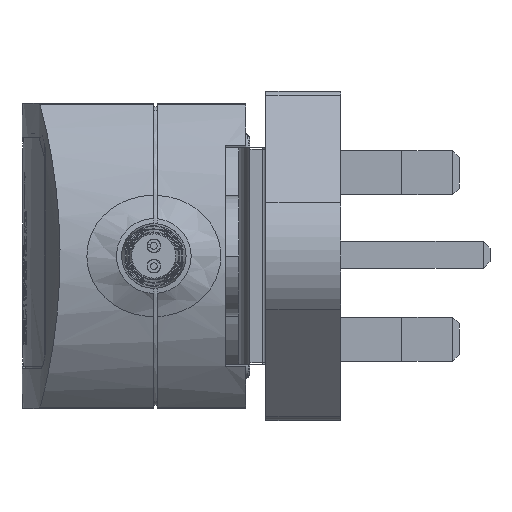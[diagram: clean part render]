
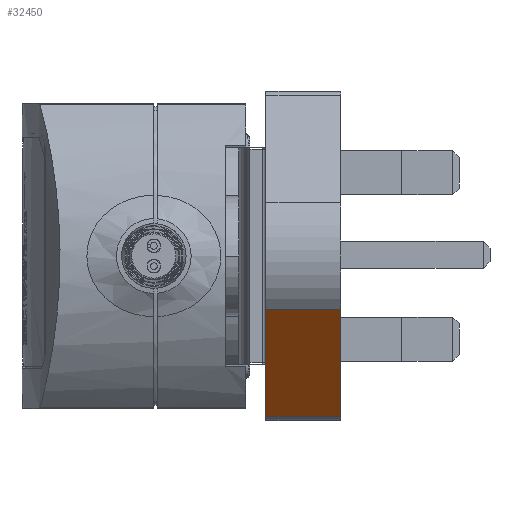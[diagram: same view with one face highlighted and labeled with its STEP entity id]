
A CAD part, left-side view. The second image highlights one B-rep face of the part: STEP entity #32450.
In plain terms, the highlighted planar face has unit normal (-0.734, 0, -0.68).
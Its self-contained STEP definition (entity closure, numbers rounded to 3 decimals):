
#529 = AXIS2_PLACEMENT_3D ( 'NONE', #12669, #34575, #15846 ) ;
#571 = VECTOR ( 'NONE', #2875, 1000. ) ;
#1333 = LINE ( 'NONE', #32861, #33730 ) ;
#1527 = LINE ( 'NONE', #30968, #571 ) ;
#1849 = EDGE_CURVE ( 'NONE', #7769, #18260, #1333, .T. ) ;
#2875 = DIRECTION ( 'NONE',  ( 0., 1., 0. ) ) ;
#3354 = DIRECTION ( 'NONE',  ( 0.68, 0., -0.734 ) ) ;
#5276 = LINE ( 'NONE', #25079, #37651 ) ;
#5512 = CARTESIAN_POINT ( 'NONE',  ( -3.1, -6., -7.816 ) ) ;
#7594 = CARTESIAN_POINT ( 'NONE',  ( -3.1, -17., -7.816 ) ) ;
#7725 = EDGE_CURVE ( 'NONE', #8979, #7769, #5276, .T. ) ;
#7769 = VERTEX_POINT ( 'NONE', #28616 ) ;
#8241 = ORIENTED_EDGE ( 'NONE', *, *, #36471, .T. ) ;
#8377 = FACE_OUTER_BOUND ( 'NONE', #19884, .T. ) ;
#8979 = VERTEX_POINT ( 'NONE', #7594 ) ;
#9290 = DIRECTION ( 'NONE',  ( 0.68, 0., -0.734 ) ) ;
#10381 = CARTESIAN_POINT ( 'NONE',  ( 11.533, -6., -23.609 ) ) ;
#11136 = EDGE_CURVE ( 'NONE', #26271, #18260, #37320, .T. ) ;
#12669 = CARTESIAN_POINT ( 'NONE',  ( 11.533, -17., -23.609 ) ) ;
#15846 = DIRECTION ( 'NONE',  ( -0.68, 0., 0.734 ) ) ;
#17262 = DIRECTION ( 'NONE',  ( 0., 1., 0. ) ) ;
#18260 = VERTEX_POINT ( 'NONE', #10381 ) ;
#19884 = EDGE_LOOP ( 'NONE', ( #35629, #24382, #22475, #8241 ) ) ;
#22475 = ORIENTED_EDGE ( 'NONE', *, *, #7725, .F. ) ;
#24382 = ORIENTED_EDGE ( 'NONE', *, *, #1849, .F. ) ;
#25079 = CARTESIAN_POINT ( 'NONE',  ( 11.533, -17., -23.609 ) ) ;
#26271 = VERTEX_POINT ( 'NONE', #5512 ) ;
#28616 = CARTESIAN_POINT ( 'NONE',  ( 11.533, -17., -23.609 ) ) ;
#29021 = VECTOR ( 'NONE', #3354, 1000. ) ;
#30968 = CARTESIAN_POINT ( 'NONE',  ( -3.1, -17., -7.816 ) ) ;
#31445 = CARTESIAN_POINT ( 'NONE',  ( 11.533, -6., -23.609 ) ) ;
#32450 = ADVANCED_FACE ( 'NONE', ( #8377 ), #37570, .F. ) ;
#32861 = CARTESIAN_POINT ( 'NONE',  ( 11.533, -17., -23.609 ) ) ;
#33730 = VECTOR ( 'NONE', #17262, 1000. ) ;
#34575 = DIRECTION ( 'NONE',  ( 0.734, 0., 0.68 ) ) ;
#35629 = ORIENTED_EDGE ( 'NONE', *, *, #11136, .T. ) ;
#36471 = EDGE_CURVE ( 'NONE', #8979, #26271, #1527, .T. ) ;
#37320 = LINE ( 'NONE', #31445, #29021 ) ;
#37570 = PLANE ( 'NONE',  #529 ) ;
#37651 = VECTOR ( 'NONE', #9290, 1000. ) ;
